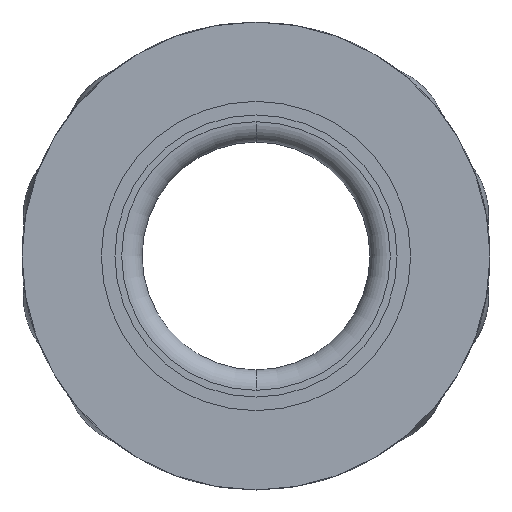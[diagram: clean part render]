
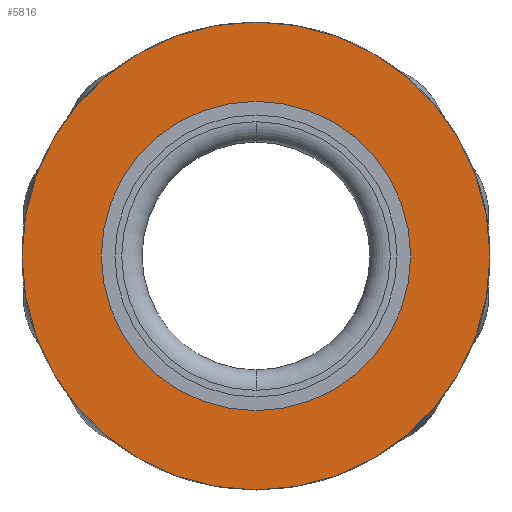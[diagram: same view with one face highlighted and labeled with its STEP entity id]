
A CAD part, front view. The second image highlights one B-rep face of the part: STEP entity #5816.
In plain terms, the highlighted planar face has unit normal (0, -1, 0).
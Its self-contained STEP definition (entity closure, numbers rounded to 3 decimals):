
#20 = VERTEX_POINT ( 'NONE', #3052 ) ;
#45 = DIRECTION ( 'NONE',  ( 0., 0., -1. ) ) ;
#50 = FACE_BOUND ( 'NONE', #4222, .T. ) ;
#133 = AXIS2_PLACEMENT_3D ( 'NONE', #4789, #2421, #2858 ) ;
#216 = AXIS2_PLACEMENT_3D ( 'NONE', #3031, #1575, #45 ) ;
#579 = CIRCLE ( 'NONE', #133, 6.9 ) ;
#593 = DIRECTION ( 'NONE',  ( 0., 0., 1. ) ) ;
#627 = EDGE_CURVE ( 'NONE', #4817, #4189, #5010, .T. ) ;
#945 = ORIENTED_EDGE ( 'NONE', *, *, #5167, .F. ) ;
#1043 = DIRECTION ( 'NONE',  ( 0., -1., 0. ) ) ;
#1575 = DIRECTION ( 'NONE',  ( 0., -1., 0. ) ) ;
#1801 = PLANE ( 'NONE',  #5584 ) ;
#1825 = EDGE_LOOP ( 'NONE', ( #2260, #4225 ) ) ;
#2260 = ORIENTED_EDGE ( 'NONE', *, *, #627, .T. ) ;
#2283 = CARTESIAN_POINT ( 'NONE',  ( 3853.216, 1620.715, 6.9 ) ) ;
#2421 = DIRECTION ( 'NONE',  ( 0., -1., 0. ) ) ;
#2554 = CARTESIAN_POINT ( 'NONE',  ( 3853.216, 1620.715, 0. ) ) ;
#2858 = DIRECTION ( 'NONE',  ( 0., 0., 1. ) ) ;
#2868 = CARTESIAN_POINT ( 'NONE',  ( 3853.216, 1620.715, 0. ) ) ;
#3031 = CARTESIAN_POINT ( 'NONE',  ( 3853.216, 1620.715, 0. ) ) ;
#3052 = CARTESIAN_POINT ( 'NONE',  ( 3853.216, 1620.715, -6.9 ) ) ;
#3754 = EDGE_CURVE ( 'NONE', #4189, #4817, #4663, .T. ) ;
#3927 = FACE_OUTER_BOUND ( 'NONE', #1825, .T. ) ;
#4189 = VERTEX_POINT ( 'NONE', #4627 ) ;
#4222 = EDGE_LOOP ( 'NONE', ( #4262, #945 ) ) ;
#4225 = ORIENTED_EDGE ( 'NONE', *, *, #3754, .T. ) ;
#4246 = CARTESIAN_POINT ( 'NONE',  ( 0., 1620.715, 0. ) ) ;
#4262 = ORIENTED_EDGE ( 'NONE', *, *, #4804, .F. ) ;
#4308 = DIRECTION ( 'NONE',  ( 0., -1., 0. ) ) ;
#4486 = CARTESIAN_POINT ( 'NONE',  ( 3853.216, 1620.715, -11.5 ) ) ;
#4627 = CARTESIAN_POINT ( 'NONE',  ( 3853.216, 1620.715, 11.5 ) ) ;
#4663 = CIRCLE ( 'NONE', #5373, 11.5 ) ;
#4789 = CARTESIAN_POINT ( 'NONE',  ( 3853.216, 1620.715, 0. ) ) ;
#4804 = EDGE_CURVE ( 'NONE', #5056, #20, #4837, .T. ) ;
#4817 = VERTEX_POINT ( 'NONE', #4486 ) ;
#4837 = CIRCLE ( 'NONE', #5975, 6.9 ) ;
#5010 = CIRCLE ( 'NONE', #216, 11.5 ) ;
#5056 = VERTEX_POINT ( 'NONE', #2283 ) ;
#5167 = EDGE_CURVE ( 'NONE', #20, #5056, #579, .T. ) ;
#5373 = AXIS2_PLACEMENT_3D ( 'NONE', #2868, #4308, #6296 ) ;
#5584 = AXIS2_PLACEMENT_3D ( 'NONE', #4246, #5704, #6146 ) ;
#5704 = DIRECTION ( 'NONE',  ( 0., 1., 0. ) ) ;
#5816 = ADVANCED_FACE ( 'NONE', ( #3927, #50 ), #1801, .F. ) ;
#5975 = AXIS2_PLACEMENT_3D ( 'NONE', #2554, #1043, #593 ) ;
#6146 = DIRECTION ( 'NONE',  ( 0., 0., 1. ) ) ;
#6296 = DIRECTION ( 'NONE',  ( 0., 0., -1. ) ) ;
